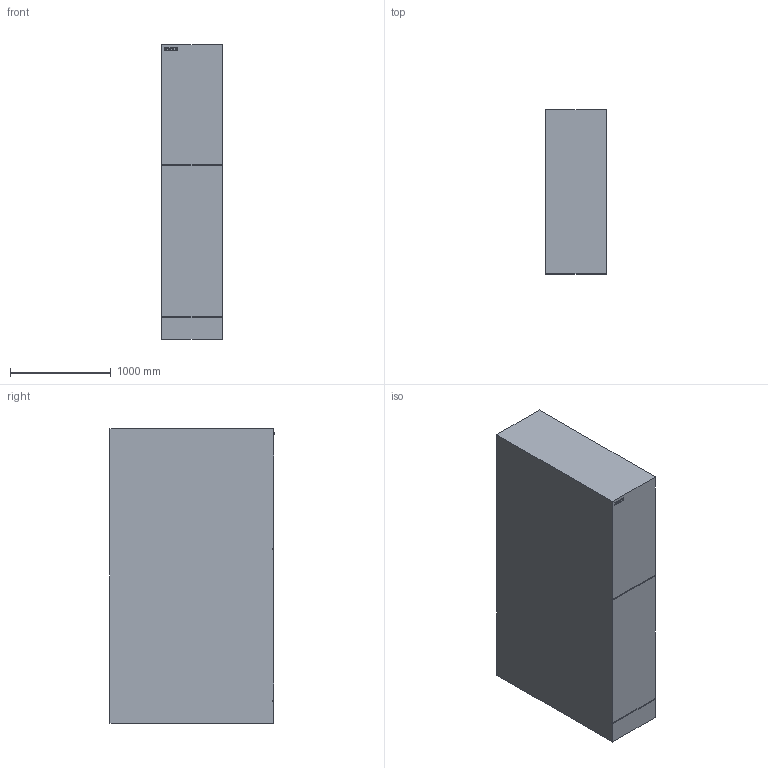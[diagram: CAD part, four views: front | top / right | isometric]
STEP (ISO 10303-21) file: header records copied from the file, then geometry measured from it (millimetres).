
FILE_DESCRIPTION(/* description */ (''),/* implementation_level */ '2;1');
FILE_NAME(/* name */ 'C:\ProgramData\Autodesk\RVT 2016\Libraries\Germany\__Siemens Entwicklung 8DA 8DB\DWG\Siemens_MV_switchgear_gas-insulated_8DA10_40_5kV - Single panel 600mm without cable cutout LV1200 with raised.stp',/* time_stamp */ '2018-03-14T11:55:10+01:00',/* author */ ('prange'),/* organization */ (''),/* preprocessor_version */ 'ST-DEVELOPER v16.1',/* originating_system */ 'AutoCAD Mechanical',/* authorisation */ '');
FILE_SCHEMA (('AUTOMOTIVE_DESIGN { 1 0 10303 214 3 1 1 }'));
Length unit declared in the file: millimetre
Products named in the file (2): 8DA - Basic - Test-568509-_3D_; Product
Assembly tree (1 placements, depth 2):
  Product
    8DA - Basic - Test-568509-_3D_
Bounding box: 600 x 1626.5 x 2920 mm (x, y, z)
Volume: 2846883750 mm3; surface area: 14976312.8 mm2
Topology: 2 solids, 9 shells, 27 faces, 191 edges, 195 vertices
Faces by surface type: plane 27
Entity records: 1848 total; most frequent: CARTESIAN_POINT 416, DIRECTION 251, ORIENTED_EDGE 219, LINE 191, VECTOR 191, EDGE_CURVE 171, VERTEX_POINT 155, AXIS2_PLACEMENT_3D 30
